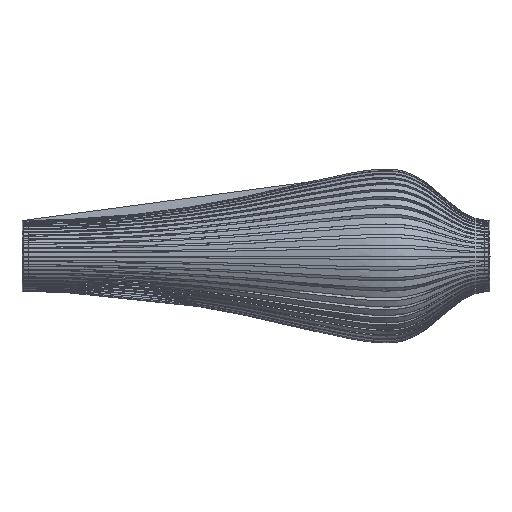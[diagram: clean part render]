
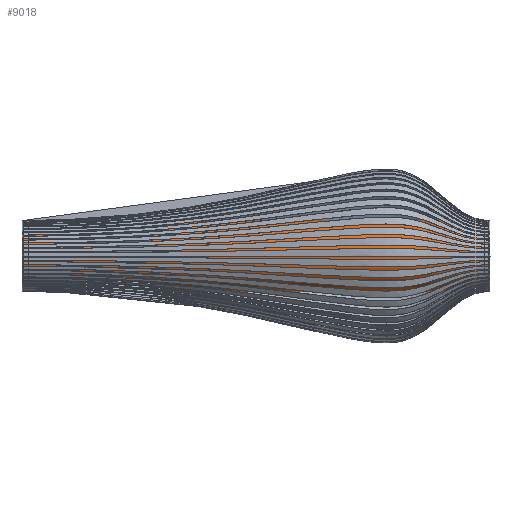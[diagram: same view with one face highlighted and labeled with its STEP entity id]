
A CAD part, left-side view. The second image highlights one B-rep face of the part: STEP entity #9018.
In plain terms, the highlighted cylindrical face has radius 102.5 mm (diameter 205 mm), a partial arc.
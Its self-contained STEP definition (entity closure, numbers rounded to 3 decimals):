
#141 = VERTEX_POINT ( 'NONE', #9681 ) ;
#1001 = DIRECTION ( 'NONE',  ( 0., 0., -1. ) ) ;
#1206 = ORIENTED_EDGE ( 'NONE', *, *, #20426, .T. ) ;
#2856 = ORIENTED_EDGE ( 'NONE', *, *, #14205, .T. ) ;
#3506 = AXIS2_PLACEMENT_3D ( 'NONE', #4004, #8833, #5442 ) ;
#3984 = ORIENTED_EDGE ( 'NONE', *, *, #18143, .F. ) ;
#4004 = CARTESIAN_POINT ( 'NONE',  ( 0., 3., 0. ) ) ;
#4379 = CARTESIAN_POINT ( 'NONE',  ( 0., 0., -102.5 ) ) ;
#4626 = CYLINDRICAL_SURFACE ( 'NONE', #16022, 102.5 ) ;
#5137 = LINE ( 'NONE', #8419, #17946 ) ;
#5265 = DIRECTION ( 'NONE',  ( 0., 0., -1. ) ) ;
#5442 = DIRECTION ( 'NONE',  ( 0., 0., -1. ) ) ;
#5976 = FACE_OUTER_BOUND ( 'NONE', #18030, .T. ) ;
#8419 = CARTESIAN_POINT ( 'NONE',  ( 0., 0., 102.5 ) ) ;
#8833 = DIRECTION ( 'NONE',  ( 0., -1., 0. ) ) ;
#9018 = ADVANCED_FACE ( 'NONE', ( #5976 ), #4626, .T. ) ;
#9133 = ORIENTED_EDGE ( 'NONE', *, *, #18383, .F. ) ;
#9681 = CARTESIAN_POINT ( 'NONE',  ( 0., 1342., 102.5 ) ) ;
#10625 = DIRECTION ( 'NONE',  ( 0., -1., 0. ) ) ;
#10938 = VERTEX_POINT ( 'NONE', #14615 ) ;
#11172 = DIRECTION ( 'NONE',  ( 0., -1., 0. ) ) ;
#11312 = CARTESIAN_POINT ( 'NONE',  ( 0., 0., 0. ) ) ;
#11606 = DIRECTION ( 'NONE',  ( 0., -1., 0. ) ) ;
#13997 = VECTOR ( 'NONE', #11172, 1000. ) ;
#14205 = EDGE_CURVE ( 'NONE', #18054, #10938, #18022, .T. ) ;
#14306 = CIRCLE ( 'NONE', #16733, 102.5 ) ;
#14615 = CARTESIAN_POINT ( 'NONE',  ( 0., 3., -102.5 ) ) ;
#16022 = AXIS2_PLACEMENT_3D ( 'NONE', #11312, #16101, #1001 ) ;
#16101 = DIRECTION ( 'NONE',  ( 0., -1., 0. ) ) ;
#16733 = AXIS2_PLACEMENT_3D ( 'NONE', #18922, #10625, #5265 ) ;
#17107 = VERTEX_POINT ( 'NONE', #17924 ) ;
#17924 = CARTESIAN_POINT ( 'NONE',  ( 0., 3., 102.5 ) ) ;
#17946 = VECTOR ( 'NONE', #11606, 1000. ) ;
#18022 = LINE ( 'NONE', #4379, #13997 ) ;
#18030 = EDGE_LOOP ( 'NONE', ( #3984, #1206, #2856, #9133 ) ) ;
#18054 = VERTEX_POINT ( 'NONE', #21531 ) ;
#18143 = EDGE_CURVE ( 'NONE', #141, #17107, #5137, .T. ) ;
#18383 = EDGE_CURVE ( 'NONE', #17107, #10938, #19711, .T. ) ;
#18922 = CARTESIAN_POINT ( 'NONE',  ( 0., 1342., 0. ) ) ;
#19711 = CIRCLE ( 'NONE', #3506, 102.5 ) ;
#20426 = EDGE_CURVE ( 'NONE', #141, #18054, #14306, .T. ) ;
#21531 = CARTESIAN_POINT ( 'NONE',  ( 0., 1342., -102.5 ) ) ;
